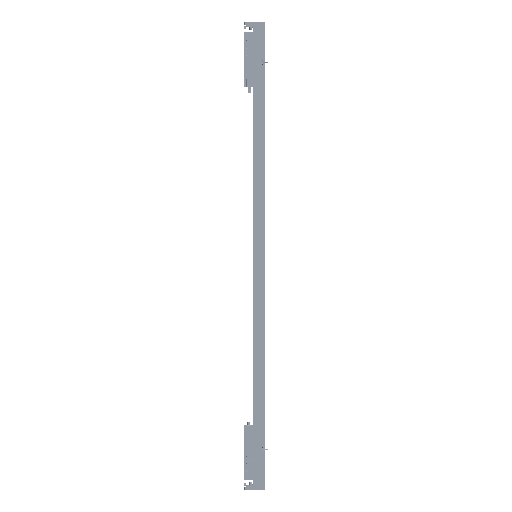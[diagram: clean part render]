
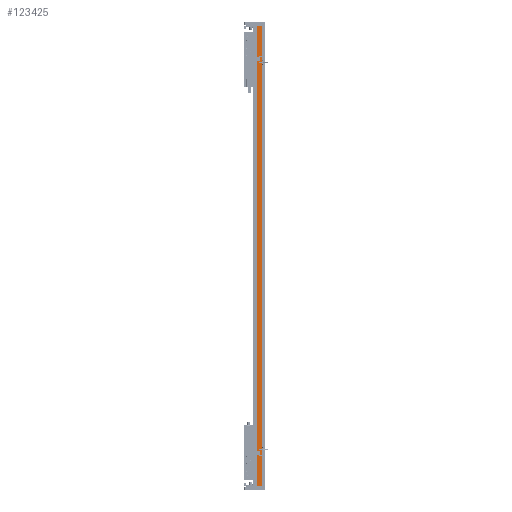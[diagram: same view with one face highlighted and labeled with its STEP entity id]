
A CAD part, left-side view. The second image highlights one B-rep face of the part: STEP entity #123425.
In plain terms, the highlighted planar face has unit normal (-1, 0, 0).
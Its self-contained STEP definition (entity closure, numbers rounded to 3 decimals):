
#881 = EDGE_CURVE ( 'NONE', #87195, #59187, #96504, .T. ) ;
#1323 = CARTESIAN_POINT ( 'NONE',  ( -82.5, 36.95, -1050. ) ) ;
#13341 = EDGE_CURVE ( 'NONE', #91311, #49521, #73794, .T. ) ;
#22168 = CARTESIAN_POINT ( 'NONE',  ( -82.5, 36.95, 1050. ) ) ;
#23622 = CARTESIAN_POINT ( 'NONE',  ( -82.5, 36.95, 1050. ) ) ;
#31800 = LINE ( 'NONE', #116135, #96216 ) ;
#32896 = CARTESIAN_POINT ( 'NONE',  ( -82.5, 36.95, 1050. ) ) ;
#34472 = VECTOR ( 'NONE', #75106, 1000. ) ;
#38670 = CARTESIAN_POINT ( 'NONE',  ( -82.5, 14.45, -1050. ) ) ;
#40599 = DIRECTION ( 'NONE',  ( 0., -1., 0. ) ) ;
#43153 = EDGE_LOOP ( 'NONE', ( #125202, #57268, #100113, #59614 ) ) ;
#46628 = VECTOR ( 'NONE', #40599, 1000. ) ;
#49521 = VERTEX_POINT ( 'NONE', #38670 ) ;
#57268 = ORIENTED_EDGE ( 'NONE', *, *, #127006, .F. ) ;
#59187 = VERTEX_POINT ( 'NONE', #97169 ) ;
#59614 = ORIENTED_EDGE ( 'NONE', *, *, #134579, .T. ) ;
#64363 = DIRECTION ( 'NONE',  ( 1., 0., 0. ) ) ;
#73794 = LINE ( 'NONE', #82824, #46628 ) ;
#75106 = DIRECTION ( 'NONE',  ( 0., -1., 0. ) ) ;
#82824 = CARTESIAN_POINT ( 'NONE',  ( -82.5, 36.95, -1050. ) ) ;
#85125 = FACE_OUTER_BOUND ( 'NONE', #43153, .T. ) ;
#85647 = LINE ( 'NONE', #127840, #98021 ) ;
#87195 = VERTEX_POINT ( 'NONE', #23622 ) ;
#91311 = VERTEX_POINT ( 'NONE', #1323 ) ;
#96149 = DIRECTION ( 'NONE',  ( 0., 1., 0. ) ) ;
#96216 = VECTOR ( 'NONE', #127243, 1000. ) ;
#96504 = LINE ( 'NONE', #32896, #34472 ) ;
#96668 = DIRECTION ( 'NONE',  ( 0., 0., -1. ) ) ;
#97169 = CARTESIAN_POINT ( 'NONE',  ( -82.5, 14.45, 1050. ) ) ;
#98021 = VECTOR ( 'NONE', #96668, 1000. ) ;
#100113 = ORIENTED_EDGE ( 'NONE', *, *, #881, .F. ) ;
#116135 = CARTESIAN_POINT ( 'NONE',  ( -82.5, 36.95, 1050. ) ) ;
#123425 = ADVANCED_FACE ( 'NONE', ( #85125 ), #127293, .F. ) ;
#125202 = ORIENTED_EDGE ( 'NONE', *, *, #13341, .T. ) ;
#127006 = EDGE_CURVE ( 'NONE', #59187, #49521, #85647, .T. ) ;
#127243 = DIRECTION ( 'NONE',  ( 0., 0., -1. ) ) ;
#127293 = PLANE ( 'NONE',  #135196 ) ;
#127840 = CARTESIAN_POINT ( 'NONE',  ( -82.5, 14.45, 1050. ) ) ;
#134579 = EDGE_CURVE ( 'NONE', #87195, #91311, #31800, .T. ) ;
#135196 = AXIS2_PLACEMENT_3D ( 'NONE', #22168, #64363, #96149 ) ;
